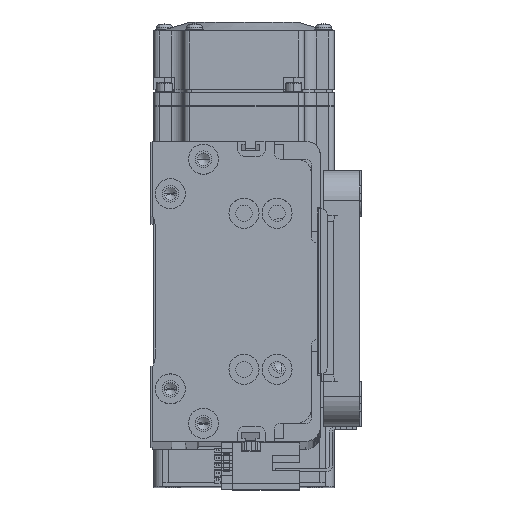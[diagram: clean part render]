
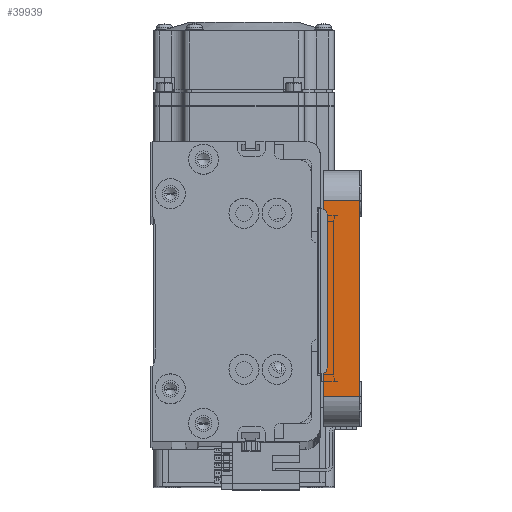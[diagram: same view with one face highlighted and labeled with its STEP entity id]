
A CAD part, top view. The second image highlights one B-rep face of the part: STEP entity #39939.
In plain terms, the highlighted planar face has unit normal (0, 0, 1) as drawn and (-1, 0, 0) by its records, which use the part's own axes.
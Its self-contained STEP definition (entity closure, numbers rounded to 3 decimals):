
#5230 = ORIENTED_EDGE ( 'NONE', *, *, #66406, .T. ) ;
#5346 = CARTESIAN_POINT ( 'NONE',  ( -55., 32.5, 12. ) ) ;
#9235 = VECTOR ( 'NONE', #38594, 1000. ) ;
#9722 = VECTOR ( 'NONE', #73689, 1000. ) ;
#11385 = VERTEX_POINT ( 'NONE', #44407 ) ;
#13547 = VERTEX_POINT ( 'NONE', #5346 ) ;
#18012 = ORIENTED_EDGE ( 'NONE', *, *, #53861, .F. ) ;
#19654 = VECTOR ( 'NONE', #45204, 1000. ) ;
#20896 = CARTESIAN_POINT ( 'NONE',  ( -55., 32.5, 0. ) ) ;
#22202 = CARTESIAN_POINT ( 'NONE',  ( -55., -42.5, 12. ) ) ;
#23516 = CARTESIAN_POINT ( 'NONE',  ( -55., -42.5, 0. ) ) ;
#25763 = LINE ( 'NONE', #23516, #71138 ) ;
#27977 = DIRECTION ( 'NONE',  ( 1., 0., 0. ) ) ;
#29280 = DIRECTION ( 'NONE',  ( 0., -1., 0. ) ) ;
#38594 = DIRECTION ( 'NONE',  ( 0., -1., 0. ) ) ;
#39939 = ADVANCED_FACE ( 'NONE', ( #42352 ), #56220, .F. ) ;
#39975 = VERTEX_POINT ( 'NONE', #73485 ) ;
#41871 = EDGE_CURVE ( 'NONE', #13547, #49774, #66818, .T. ) ;
#42352 = FACE_OUTER_BOUND ( 'NONE', #72540, .T. ) ;
#43491 = EDGE_CURVE ( 'NONE', #49774, #39975, #25763, .T. ) ;
#44407 = CARTESIAN_POINT ( 'NONE',  ( -55., -32.5, 12. ) ) ;
#45204 = DIRECTION ( 'NONE',  ( 0., 0., -1. ) ) ;
#49774 = VERTEX_POINT ( 'NONE', #20896 ) ;
#50448 = ORIENTED_EDGE ( 'NONE', *, *, #41871, .T. ) ;
#50713 = CARTESIAN_POINT ( 'NONE',  ( -55., -32.5, 12. ) ) ;
#53251 = LINE ( 'NONE', #50713, #9722 ) ;
#53861 = EDGE_CURVE ( 'NONE', #13547, #11385, #69731, .T. ) ;
#56220 = PLANE ( 'NONE',  #64496 ) ;
#56530 = CARTESIAN_POINT ( 'NONE',  ( -55., 32.5, 12. ) ) ;
#56705 = ORIENTED_EDGE ( 'NONE', *, *, #43491, .T. ) ;
#64496 = AXIS2_PLACEMENT_3D ( 'NONE', #22202, #27977, #67702 ) ;
#66406 = EDGE_CURVE ( 'NONE', #39975, #11385, #53251, .T. ) ;
#66818 = LINE ( 'NONE', #56530, #19654 ) ;
#66903 = CARTESIAN_POINT ( 'NONE',  ( -55., -42.5, 12. ) ) ;
#67702 = DIRECTION ( 'NONE',  ( 0., 0., -1. ) ) ;
#69731 = LINE ( 'NONE', #66903, #9235 ) ;
#71138 = VECTOR ( 'NONE', #29280, 1000. ) ;
#72540 = EDGE_LOOP ( 'NONE', ( #56705, #5230, #18012, #50448 ) ) ;
#73485 = CARTESIAN_POINT ( 'NONE',  ( -55., -32.5, 0. ) ) ;
#73689 = DIRECTION ( 'NONE',  ( 0., 0., 1. ) ) ;
